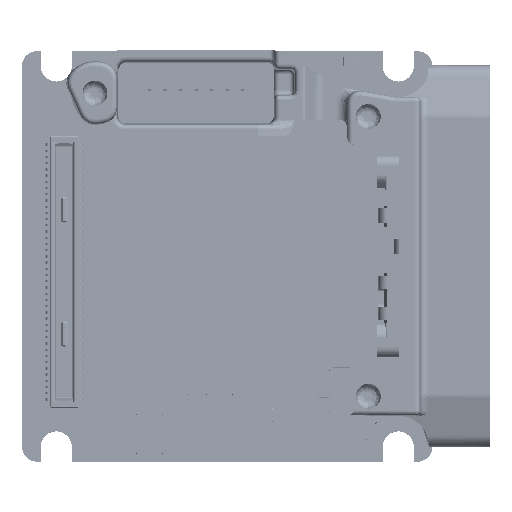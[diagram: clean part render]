
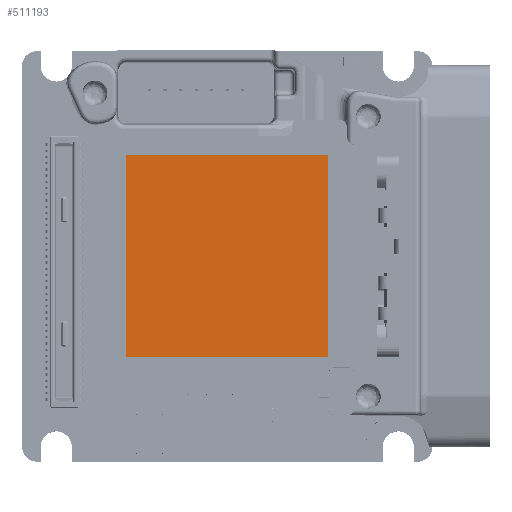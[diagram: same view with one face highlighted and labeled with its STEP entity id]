
A CAD part, top view. The second image highlights one B-rep face of the part: STEP entity #511193.
In plain terms, the highlighted planar face has unit normal (0, 0, 1).
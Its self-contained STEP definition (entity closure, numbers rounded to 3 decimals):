
#5417 = VERTEX_POINT ( 'NONE', #47560 ) ;
#32147 = CARTESIAN_POINT ( 'NONE',  ( -6.5, 6.5, 6.162 ) ) ;
#47288 = LINE ( 'NONE', #238121, #277217 ) ;
#47560 = CARTESIAN_POINT ( 'NONE',  ( 6.5, -6.5, 6.162 ) ) ;
#49502 = EDGE_LOOP ( 'NONE', ( #233729, #79192, #419348, #515533 ) ) ;
#78167 = DIRECTION ( 'NONE',  ( 0., 0., 1. ) ) ;
#79192 = ORIENTED_EDGE ( 'NONE', *, *, #160840, .F. ) ;
#86271 = LINE ( 'NONE', #215558, #336152 ) ;
#88079 = DIRECTION ( 'NONE',  ( -1., 0., 0. ) ) ;
#109159 = VECTOR ( 'NONE', #419359, 1000. ) ;
#129271 = LINE ( 'NONE', #385897, #380897 ) ;
#154188 = EDGE_CURVE ( 'NONE', #550789, #233755, #463479, .T. ) ;
#160840 = EDGE_CURVE ( 'NONE', #233755, #5417, #47288, .T. ) ;
#215558 = CARTESIAN_POINT ( 'NONE',  ( -6.5, -6.5, 6.162 ) ) ;
#217732 = EDGE_CURVE ( 'NONE', #572599, #550789, #86271, .T. ) ;
#219047 = FACE_OUTER_BOUND ( 'NONE', #49502, .T. ) ;
#226531 = DIRECTION ( 'NONE',  ( 0., -1., 0. ) ) ;
#233729 = ORIENTED_EDGE ( 'NONE', *, *, #331152, .F. ) ;
#233755 = VERTEX_POINT ( 'NONE', #403825 ) ;
#238121 = CARTESIAN_POINT ( 'NONE',  ( 6.5, 6.5, 6.162 ) ) ;
#239922 = CARTESIAN_POINT ( 'NONE',  ( -6.5, 6.5, 6.162 ) ) ;
#257430 = PLANE ( 'NONE',  #354763 ) ;
#277217 = VECTOR ( 'NONE', #226531, 1000. ) ;
#311979 = CARTESIAN_POINT ( 'NONE',  ( -6.5, -6.5, 6.162 ) ) ;
#331152 = EDGE_CURVE ( 'NONE', #5417, #572599, #129271, .T. ) ;
#336152 = VECTOR ( 'NONE', #486205, 1000. ) ;
#354763 = AXIS2_PLACEMENT_3D ( 'NONE', #481024, #78167, #398464 ) ;
#380897 = VECTOR ( 'NONE', #88079, 1000. ) ;
#385897 = CARTESIAN_POINT ( 'NONE',  ( 6.5, -6.5, 6.162 ) ) ;
#398464 = DIRECTION ( 'NONE',  ( 1., 0., 0. ) ) ;
#403825 = CARTESIAN_POINT ( 'NONE',  ( 6.5, 6.5, 6.162 ) ) ;
#419348 = ORIENTED_EDGE ( 'NONE', *, *, #154188, .F. ) ;
#419359 = DIRECTION ( 'NONE',  ( 1., 0., 0. ) ) ;
#463479 = LINE ( 'NONE', #239922, #109159 ) ;
#481024 = CARTESIAN_POINT ( 'NONE',  ( -6.5, -6.5, 6.162 ) ) ;
#486205 = DIRECTION ( 'NONE',  ( 0., 1., 0. ) ) ;
#511193 = ADVANCED_FACE ( 'NONE', ( #219047 ), #257430, .T. ) ;
#515533 = ORIENTED_EDGE ( 'NONE', *, *, #217732, .F. ) ;
#550789 = VERTEX_POINT ( 'NONE', #32147 ) ;
#572599 = VERTEX_POINT ( 'NONE', #311979 ) ;
